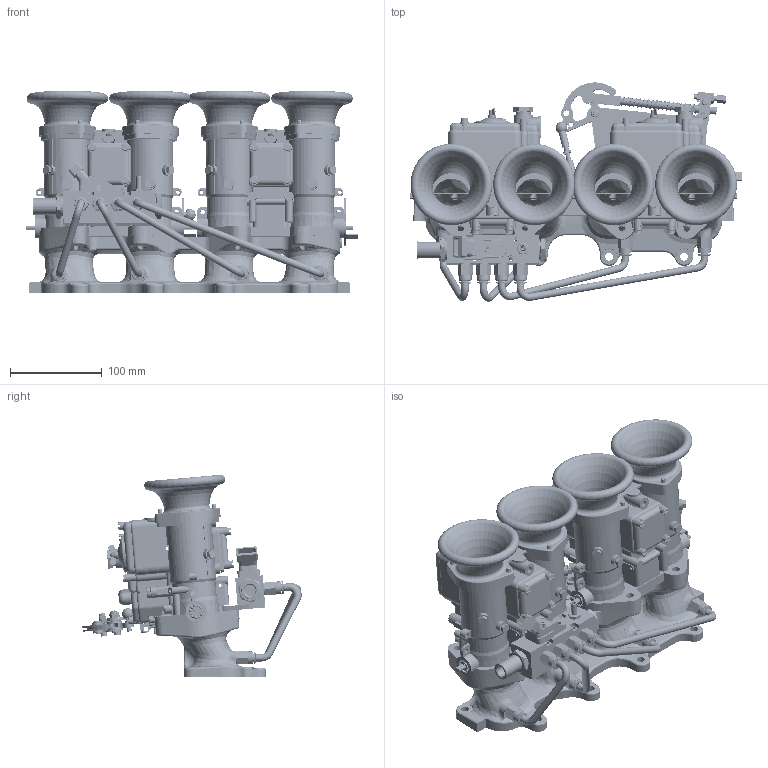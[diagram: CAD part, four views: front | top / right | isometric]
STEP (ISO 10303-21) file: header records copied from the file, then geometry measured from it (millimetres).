
FILE_DESCRIPTION (( 'STEP AP203' ), '1' );
FILE_NAME ('Mazda Mx-5 DCOE manifold.STEP', '2025-03-13T19:41:53', ( '' ), ( '' ), 'SwSTEP 2.0', 'SolidWorks 2019', '' );
FILE_SCHEMA (( 'CONFIG_CONTROL_DESIGN' ));
Products named in the file (1): Mazda Mx-5 DCOE manifold
Bounding box: 361.15 x 238.6 x 220.24 mm (x, y, z)
Surface area: 587806 mm2 (no closed solid volume)
Topology: 0 solids, 217 shells, 3968 faces, 12372 edges, 8280 vertices
Faces by surface type: cylinder 1633, plane 1212, bspline 444, cone 366, torus 235, sphere 78
Entity records: 207010 total; most frequent: CARTESIAN_POINT 102243, ORIENTED_EDGE 21470, DIRECTION 21285, EDGE_CURVE 12192, AXIS2_PLACEMENT_3D 8255, VERTEX_POINT 8198, LINE 4775, VECTOR 4775
